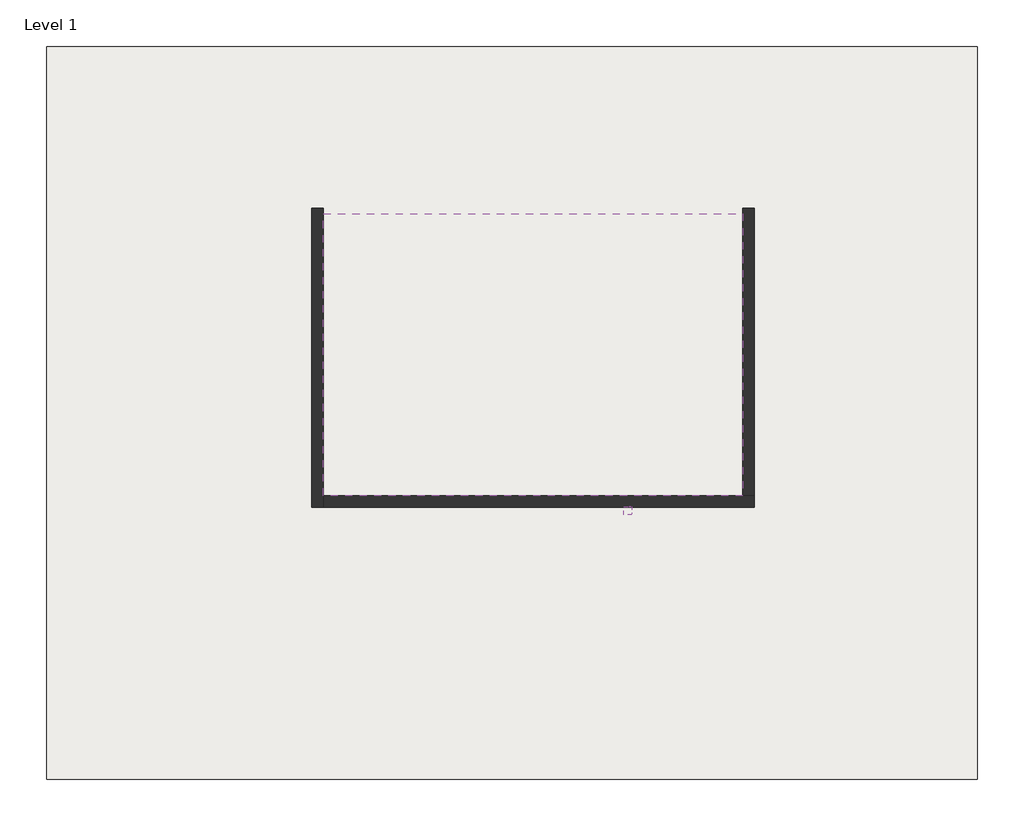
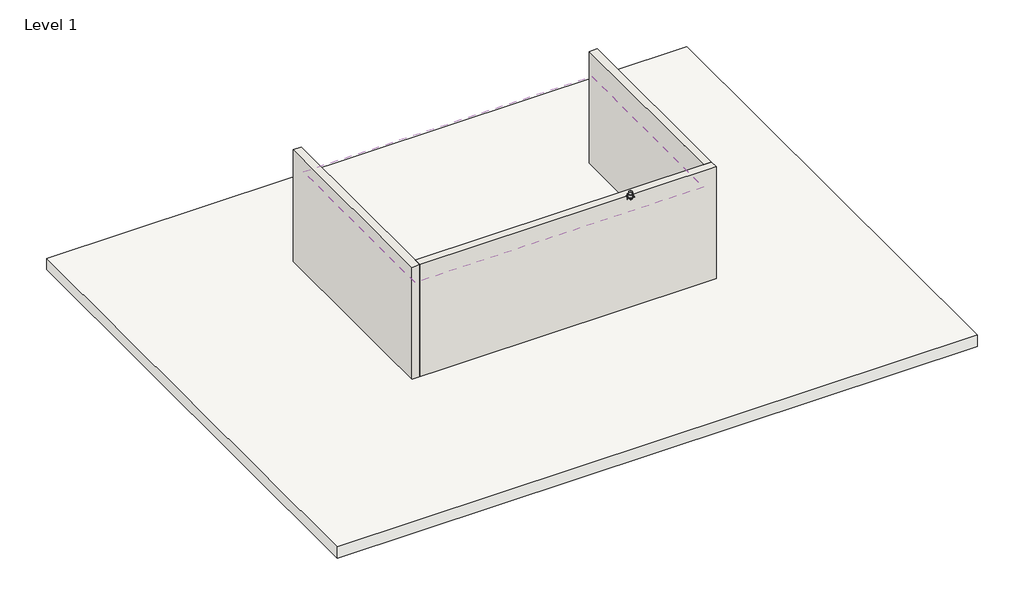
# One storey, incomplete: 3 walls, 1 covering, 1 proxy, 1 slab.
"""IFC4 building model written with IfcOpenShell, lengths in millimetres."""

from ifc_helpers import new_model, si_unit, frame, origin, origin_with_axes, place, context, project, spatial, polyline, outline, extrude, faceted_brep, transform, mapped, element, save
from components import mq8poe_wall_mount_d2499bfe

model = new_model("IFC4")

# Units and contexts
model_context = context("Model", 3, world=origin())
ifc_project = project(units=[si_unit("LENGTHUNIT", "METRE", prefix="MILLI")], contexts=[model_context])

# Site, building, storey
site = spatial("IfcSite", under=ifc_project)
building = spatial("IfcBuilding", under=site)
storey = spatial("IfcBuildingStorey", under=building, Name="Level 1", Elevation=0.0)

# Proxy
placement = place(None, origin())
mq8poe_wall_mount_shape = mq8poe_wall_mount_d2499bfe(model_context)
element("IfcBuildingElementProxy", 1, Name="MQ8POE : Wall Mount", ObjectType="MQ8POE : Wall Mount", at=placement, inside=storey, context=model_context, shape_type="MappedRepresentation", body=[
    mapped(mq8poe_wall_mount_shape, transform((933.115262, -3293.8673805, 0.0), x_axis=(-1.0, -1.8983625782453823e-10, 0.0), y_axis=(1.8983625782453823e-10, -1.0, 0.0), z_axis=(0.0, 0.0, 1.0))),
])

# Covering
element("IfcCovering", 2, ObjectType="2' x 4' ACT System", at=placement, inside=storey, context=model_context, shape_type="SweptSolid", body=[
    extrude(outline(polyline([(-4451.6847381, 1887.7326195), (2965.1152619, 1887.7326195), (2965.1152619, -3090.6673805), (-4451.6847381, -3090.6673805), (-4451.6847381, 1887.7326195)])), frame((0.0, 0.0, 2438.4), z_axis=(0.0, 0.0, 1.0), x_axis=(1.0, 0.0, 0.0)), (0.0, 0.0, 1.0), 57.15),
])

# Slab
element("IfcSlab", 3, ObjectType="Generic - 12\"", at=placement, inside=storey, context=model_context, shape_type="SweptSolid", body=[
    extrude(outline(polyline([(7112.7591015, 4847.6367519), (7112.7591015, -8106.3632481), (-9346.4408985, -8106.3632481), (-9346.4408985, 4847.6367519), (7112.7591015, 4847.6367519)])), frame((0.0, 0.0, -304.8), z_axis=(0.0, 0.0, 1.0), x_axis=(1.0, 0.0, 0.0)), (0.0, 0.0, 1.0), 304.8),
])

# Walls
element("IfcWall", 4, ObjectType="Generic - 8\"", at=placement, inside=storey, context=model_context, shape_type="Brep", body=[
    faceted_brep([(-4451.6847381, -3293.8673805, 0.0), (-4451.6847381, -3090.6673805, 0.0), (-4451.6847381, 1989.3326195, 0.0), (-4451.6847381, 1989.3326195, 3048.0), (-4451.6847381, -3090.6673805, 3048.0), (-4451.6847381, -3293.8673805, 3048.0), (-4654.8847381, -3293.8673805, 0.0), (-4654.8847381, -3293.8673805, 3048.0), (-4654.8847381, 1989.3326195, 3048.0), (-4654.8847381, 1989.3326195, 0.0)], [[[0, 1, 2, 3, 4, 5]], [[6, 7, 8, 9]], [[2, 1, 0, 6, 9]], [[3, 2, 9, 8]], [[5, 4, 3, 8, 7]], [[0, 5, 7, 6]]]),
])
element("IfcWall", 5, ObjectType="Generic - 8\"", at=placement, inside=storey, context=model_context, shape_type="Brep", body=[
    faceted_brep([(3168.3152619, -3090.6673805, 0.0), (2965.1152619, -3090.6673805, 0.0), (-4451.6847381, -3090.6673805, 0.0), (-4451.6847381, -3090.6673805, 3048.0), (2965.1152619, -3090.6673805, 3048.0), (3168.3152619, -3090.6673805, 3048.0), (3168.3152619, -3293.8673805, 0.0), (3168.3152619, -3293.8673805, 3048.0), (-4451.6847381, -3293.8673805, 3048.0), (-4451.6847381, -3293.8673805, 0.0)], [[[0, 1, 2, 3, 4, 5]], [[6, 7, 8, 9]], [[2, 1, 0, 6, 9]], [[5, 4, 3, 8, 7]], [[0, 5, 7, 6]], [[3, 2, 9, 8]]]),
])
element("IfcWall", 6, ObjectType="Generic - 8\"", at=placement, inside=storey, context=model_context, shape_type="SweptSolid", body=[
    extrude(outline(polyline([(2965.1152619, -3090.6673805), (2965.1152619, 1989.3326195), (3168.3152619, 1989.3326195), (3168.3152619, -3090.6673805), (2965.1152619, -3090.6673805)])), origin_with_axes(), (0.0, 0.0, 1.0), 3048.0),
])

save(model, "model.ifc")
